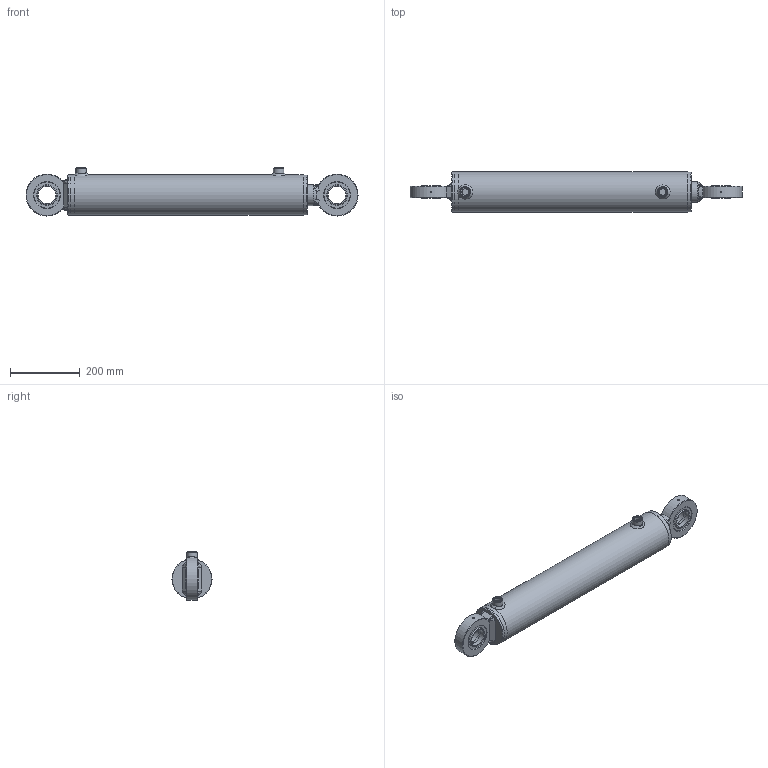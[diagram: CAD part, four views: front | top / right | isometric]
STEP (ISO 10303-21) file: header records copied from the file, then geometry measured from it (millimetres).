
FILE_DESCRIPTION( ( 'Unknown' ), '1' );
FILE_NAME( 'E:/LIBRERIA_3d/CILINDRI/HMC/HMC6600500.stp', 'Unknown', ( 'Unknown' ), ( 'Unknown' ), 'PSStep 17.0.49', 'Unknown', ' ' );
FILE_SCHEMA( ( 'AUTOMOTIVE_DESIGN { 1 0 10303 214 1 1 1 1 }' ) );
Length unit declared in the file: millimetre
Products named in the file (29): CT00100033; CG11510060; STL6700500-oa6; Saldatura d'angolo 1-oa4; FTM6700500-oa5; CBSC220800; HM06600500; CF00100115; Saldatura con preparazione 1-oa2; Saldatura d'angolo 1-oa3; CBS0800000; CDA0003320; APG0800000; SBL6060500; CAGEG12007550; CGE0500000; CAGE120075; Assem1; Saldatura d'angolo 1-oa0; Saldatura d'angolo 2-oa1
Assembly tree (20 placements, depth 4):
  Saldatura d'angolo 1-oa4
  Saldatura d'angolo 1-oa4
  Saldatura d'angolo 1-oa3
  Saldatura d'angolo 1-oa3
  Assem1
    CAGEG12007550  x2
      CGE0500000
      CAGE120075
    HM06600500
      CF00100115
      Saldatura con preparazione 1-oa2
      Saldatura con preparazione 1-oa2
      CBS0800000
      CDA0003320
      APG0800000  x2
      SBL6060500
      CT00100033
        CT00100033
      CG11510060
        CG11510060
      STL6700500-oa6
        FTM6700500-oa5
        CBSC220800
Bounding box: 950 x 115 x 137.5 mm (x, y, z)
Volume: 5072771.4 mm3; surface area: 893577.6 mm2
Topology: 26 solids, 26 shells, 380 faces, 844 edges, 503 vertices
Faces by surface type: bspline 140, plane 78, cylinder 78, cone 44, torus 36, sphere 4
Full cylindrical faces by diameter (mm): 3 x4, 4.25 x1, 4.917 x4, 8 x2, 12 x1, 18.631 x2, 19.5 x2, 20.95 x2, 26 x2, 30 x2, 32.4 x1, 33 x5, 39.2 x1, 50 x5, 60 x5, 63 x3, 68.6 x1, 72 x1, 73 x2, 75 x7, 91.5 x1, 93.14 x2, 98.05 x2, 99.9 x1, 100 x1, 100.3 x1, 100.5 x1, 100.6 x1, 101 x1, 102 x3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
Entity records: 18541 total; most frequent: CARTESIAN_POINT 9908, ORIENTED_EDGE 1106, DIRECTION 888, EDGE_CURVE 553, EDGE_LOOP 543, FACE_OUTER_BOUND 452, AXIS2_PLACEMENT_3D 431, VERTEX_POINT 413
